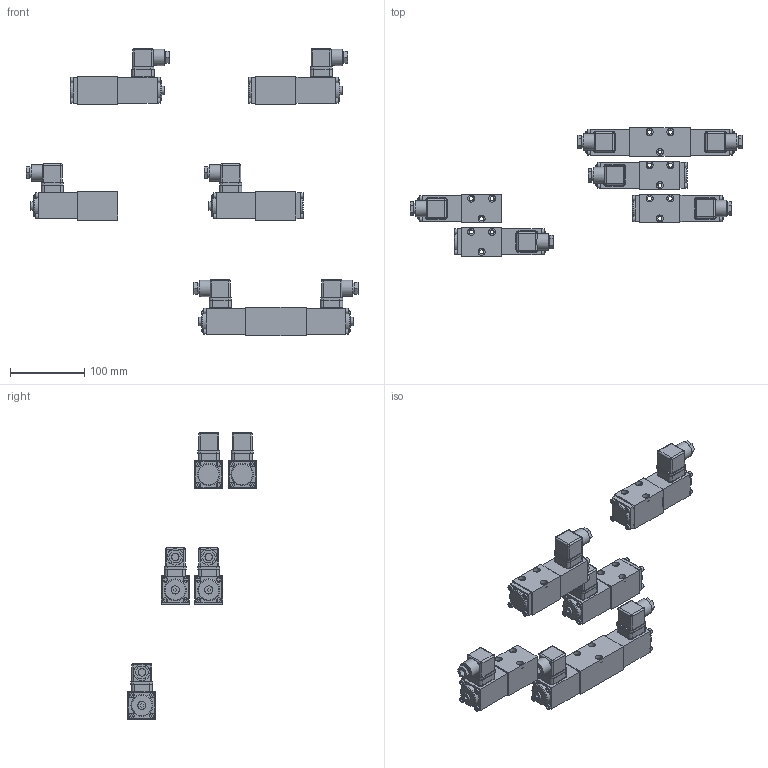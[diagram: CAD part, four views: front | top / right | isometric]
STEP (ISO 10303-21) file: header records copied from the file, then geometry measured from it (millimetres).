
FILE_DESCRIPTION(('Bauteilbeschreibung','HiCAD-Model','HiCAD-STEP-TRANSLATION','Bauteilbeschreibung'),'2;1');
FILE_NAME('D:/B_04.STP','2006-09-29T07:34:56+00:00',('Konstrukteur'),('Konstrukteur Firma GmbH'),'HiCAD3 V1210 STEP 1.6.2005','HiCAD3 V1210','confidential');
FILE_SCHEMA(('AUTOMOTIVE_DESIGN { 1 2 10303 214 0 1 1 1 }'));
Length unit declared in the file: millimetre
Products named in the file (109): B_04; B_3404; C590A4E5; A107837C; AAA22686; F134825D; AD54FEE3; CA9517B3; CA9517B30; DICHTUNG; AAA226860; F134825D0; AD54FEE30; CA9517B31; CA9517B32; DICHTUNG0; IN6KTM4; IN6KTM40; IN6KTM41; IN6KTM42; IN6KTM43; IN6KTM44; IN6KTM45; IN6KTM46; IN6KTM47; IN6KTM48; D82DEE49; D82DEE490; B_32041A; B5201F6B; IN6KTM49; IN6KTM410; IN6KTM411; IN6KTM412; IN6KTM413; AAA226861; F134825D1; AD54FEE31; CA9517B33; CA9517B34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
Assembly tree (108 placements, depth 6):
  B_04
    B_3404
      C590A4E5
        A107837C
        AAA22686
          F134825D
          AD54FEE3
          CA9517B3
          CA9517B30
            DICHTUNG
        AAA226860
          F134825D0
          AD54FEE30
          CA9517B31
          CA9517B32
            DICHTUNG0
        IN6KTM4
          IN6KTM40
          IN6KTM41
          IN6KTM42
          IN6KTM43
        IN6KTM44
          IN6KTM45
          IN6KTM46
          IN6KTM47
          IN6KTM48
        D82DEE49
        D82DEE490
    B_32041A
      B5201F6B
        IN6KTM49
          IN6KTM410
          IN6KTM411
          IN6KTM412
          IN6KTM413
        AAA226861
          F134825D1
          AD54FEE31
          CA9517B33
          CA9517B34
            DICHTUNG1
        D82DEE491
        AA75327F
        AA75327F0
          IN6KTM414
            IN6KTM415
            IN6KTM416
            IN6KTM417
            IN6KTM418
        A5E16FAE
    B_22041A
      A950A2F0
        IN6KTM419
          IN6KTM420
          IN6KTM421
          IN6KTM422
          IN6KTM423
        AAA226862
          F134825D2
          AD54FEE32
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Bounding box: 447 x 173 x 386.5 mm (x, y, z)
Volume: 1054855.9 mm3; surface area: 251919.7 mm2
Topology: 92 solids, 92 shells, 1484 faces, 3353 edges, 2246 vertices
Faces by surface type: plane 979, cylinder 454, sphere 24, cone 21, torus 6
Full cylindrical faces by diameter (mm): 1.5 x18, 2.9 x6, 3 x18, 4 x42, 4.5 x36, 5.5 x15, 6.8 x6, 7 x36, 8 x18, 8.5 x25, 9.5 x15, 10 x6, 11 x6, 12 x6, 12.5 x6, 15 x6, 22 x6, 29.5 x6, 30 x3, 32 x6
Entity records: 67949 total; most frequent: CARTESIAN_POINT 7276, DIRECTION 7148, ORIENTED_EDGE 5650, COLOUR_RGB 4383, PRESENTATION_STYLE_ASSIGNMENT 4383, OVER_RIDING_STYLED_ITEM 4309, CURVE_STYLE 2825, DRAUGHTING_PRE_DEFINED_CURVE_FONT 2825
